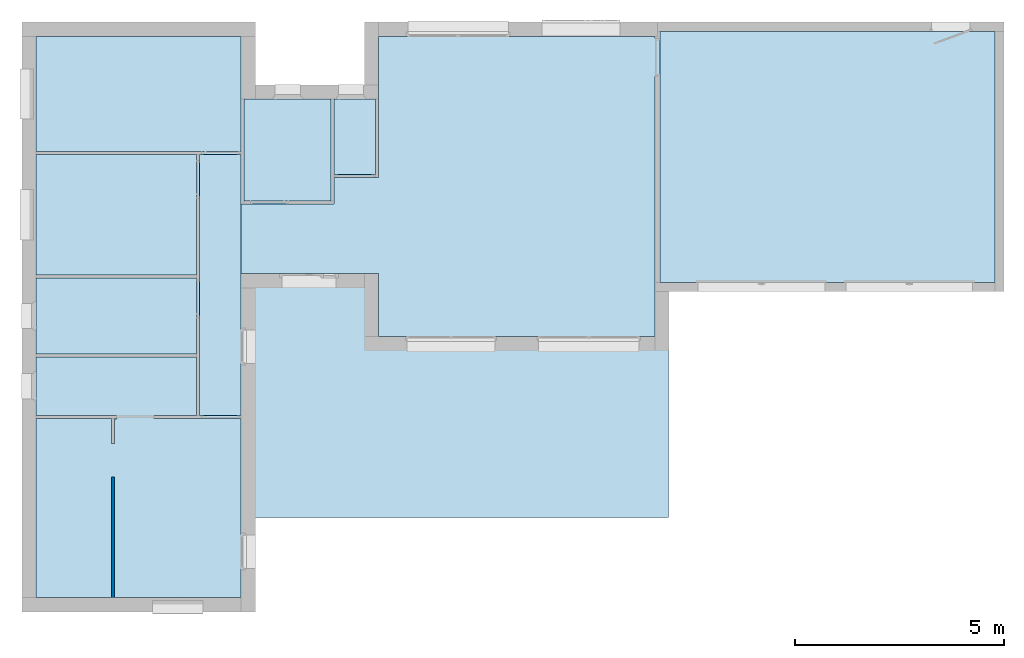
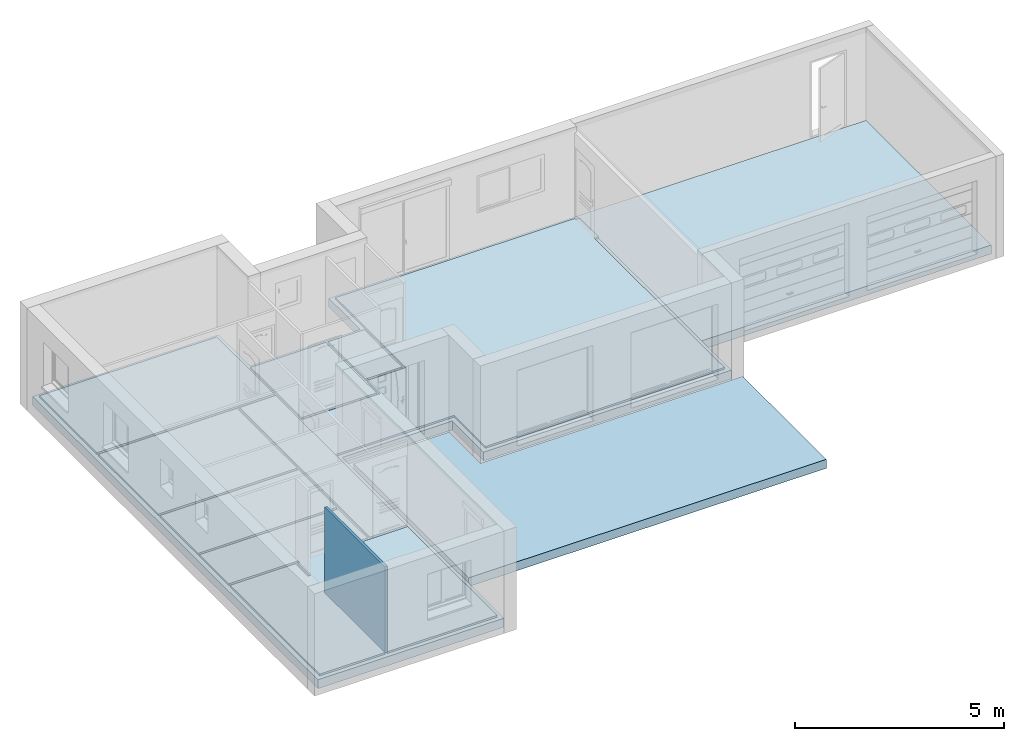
# One storey, part 1 of 23: 11 slabs, 1 wall.
"""IFC2X3 building model written with IfcOpenShell, lengths in metres."""

from ifc_helpers import new_model, entity, si_unit, converted_unit, derived_unit, direction, frame, frame_2d, origin, place, context, subcontext, project, spatial, polyline, rectangle, outline, extrude, material, layer, layer_set, layer_usage, type_object, element, save


model = new_model("IFC2X3")

# Units and contexts
model_context = context("Model", 3, precision=1e-05, world=origin(), true_north=direction((6.12303176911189e-17, 1.0)))
body_context = subcontext(model_context, "Body", "Model", "MODEL_VIEW")
ifc_project = project(units=[si_unit("LENGTHUNIT", "METRE"), si_unit("AREAUNIT", "SQUARE_METRE"), si_unit("VOLUMEUNIT", "CUBIC_METRE"), converted_unit("PLANEANGLEUNIT", "DEGREE", entity("IfcRatioMeasure", 0.0174532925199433), si_unit("PLANEANGLEUNIT", "RADIAN"), dimensions=[0, 0, 0, 0, 0, 0, 0]), si_unit("MASSUNIT", "GRAM", prefix="KILO"), derived_unit("MASSDENSITYUNIT", [(si_unit("MASSUNIT", "GRAM", prefix="KILO"), 1), (si_unit("LENGTHUNIT", "METRE"), -3)]), si_unit("TIMEUNIT", "SECOND"), si_unit("FREQUENCYUNIT", "HERTZ"), si_unit("THERMODYNAMICTEMPERATUREUNIT", "DEGREE_CELSIUS"), derived_unit("THERMALTRANSMITTANCEUNIT", [(si_unit("MASSUNIT", "GRAM", prefix="KILO"), 1), (si_unit("THERMODYNAMICTEMPERATUREUNIT", "KELVIN"), -1), (si_unit("TIMEUNIT", "SECOND"), -3)]), derived_unit("VOLUMETRICFLOWRATEUNIT", [(si_unit("LENGTHUNIT", "METRE"), 3), (si_unit("TIMEUNIT", "SECOND"), -1)]), si_unit("ELECTRICCURRENTUNIT", "AMPERE"), si_unit("ELECTRICVOLTAGEUNIT", "VOLT"), si_unit("POWERUNIT", "WATT"), si_unit("FORCEUNIT", "NEWTON", prefix="KILO"), si_unit("ILLUMINANCEUNIT", "LUX"), si_unit("LUMINOUSFLUXUNIT", "LUMEN"), si_unit("LUMINOUSINTENSITYUNIT", "CANDELA"), derived_unit("USERDEFINED", [(si_unit("MASSUNIT", "GRAM", prefix="KILO"), -1), (si_unit("LENGTHUNIT", "METRE"), -2), (si_unit("TIMEUNIT", "SECOND"), 3), (si_unit("LUMINOUSFLUXUNIT", "LUMEN"), 1)]), derived_unit("LINEARVELOCITYUNIT", [(si_unit("LENGTHUNIT", "METRE"), 1), (si_unit("TIMEUNIT", "SECOND"), -1)]), si_unit("PRESSUREUNIT", "PASCAL"), derived_unit("USERDEFINED", [(si_unit("LENGTHUNIT", "METRE"), -2), (si_unit("MASSUNIT", "GRAM", prefix="KILO"), 1), (si_unit("TIMEUNIT", "SECOND"), -2)])], contexts=[model_context])

# Site, building, storey
site_placement = place(None, origin())
site = spatial("IfcSite", under=ifc_project, at=site_placement, Name="Default", CompositionType="ELEMENT")
building_placement = place(site_placement, origin())
building = spatial("IfcBuilding", under=site, at=building_placement, CompositionType="ELEMENT")
storey_placement = place(building_placement, origin())
storey = spatial("IfcBuildingStorey", under=building, at=storey_placement, Name="2 - Rez de Chaussée", CompositionType="ELEMENT", Elevation=-1.94916083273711e-14)

# Slabs
ifc_material_1 = material(Name="L'Enveloppe Métallique du Bâtiment- Béton coulé + Armature")
ifc_layer_1 = layer(ifc_material_1, 0.1)
ifc_material_2 = material(Name="L'Enveloppe Métallique du Bâtiment - Bac acier+Béton coulé")
ifc_layer_2 = layer(ifc_material_2, 0.1)
ifc_material_3 = material(Name="L'Enveloppe Métallique du Bâtiment-Isolation")
ifc_layer_3 = layer(ifc_material_3, 0.06)
ifc_layer_set_1 = layer_set([ifc_layer_1, ifc_layer_2, ifc_layer_3], Name="Sol:54 - L'Enveloppe Métallique du Bâtiment - Plancher collaborant avec protection feu et/ou acoustique")
ifc_layer_usage_1 = layer_usage(ifc_layer_set_1, "AXIS3", "POSITIVE", 0.0)
slab_1_placement = place(storey_placement, origin())
element("IfcSlab", 1, at=slab_1_placement, inside=storey, material=ifc_layer_usage_1, Name="Sol:54 - L'Enveloppe Métallique du Bâtiment - Plancher collaborant avec protection feu et/ou acoustique", ObjectType="Sol:54 - L'Enveloppe Métallique du Bâtiment - Plancher collaborant avec protection feu et/ou acoustique", PredefinedType="FLOOR", context=body_context, shape_type="SweptSolid", body=[
    extrude(outline(polyline([(-8.905, -6.94333333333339), (4.74500000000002, -6.94333333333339), (4.74500000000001, -1.80333333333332), (3.24500000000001, -1.80333333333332), (3.24500000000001, 1.23666666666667), (4.745, 1.23666666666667), (4.74500000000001, 8.07666666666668), (-2.665, 8.07666666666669), (-2.66500000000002, 1.23666666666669), (-1.16500000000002, 1.23666666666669), (-1.16500000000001, -1.80333333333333), (-8.90500000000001, -1.80333333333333), (-8.905, -6.94333333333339)])), frame((-2.77288913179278, 1.67305500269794, -0.05), z_axis=(0.0, 0.0, -1.0), x_axis=(0.0, 1.0, 0.0)), (0.0, 0.0, 1.0), 0.26),
])
ifc_material_4 = material(Name="Béton, coulé sur place")
ifc_layer_4 = layer(ifc_material_4, 0.1)
ifc_material_5 = material(Name="Fondations filantes")
ifc_layer_5 = layer(ifc_material_5, 0.16)
ifc_layer_set_2 = layer_set([ifc_layer_4, ifc_layer_5], Name="Sol:Plancher poutrelles hourdis - 16+10")
ifc_layer_usage_2 = layer_usage(ifc_layer_set_2, "AXIS3", "POSITIVE", 0.0)
slab_2_placement = place(storey_placement, origin())
element("IfcSlab", 2, at=slab_2_placement, inside=storey, material=ifc_layer_usage_2, Name="Sol:Plancher poutrelles hourdis - 16+10", ObjectType="Sol:Plancher poutrelles hourdis - 16+10", PredefinedType="FLOOR", context=body_context, shape_type="SweptSolid", body=[
    extrude(rectangle(XDim=6.0, YDim=8.0, at=frame_2d((0.0, 8.88178419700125e-16), x_axis=(1.0, 0.0))), frame((9.30377753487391, 3.41805500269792, -0.05), z_axis=(0.0, 0.0, -1.0), x_axis=(0.0, 1.0, 0.0)), (0.0, 0.0, 1.0), 0.26),
])
ifc_layer_usage_3 = layer_usage(ifc_layer_set_2, "AXIS3", "POSITIVE", 0.0)
slab_3_placement = place(storey_placement, origin())
element("IfcSlab", 3, at=slab_3_placement, inside=storey, material=ifc_layer_usage_3, Name="Sol:Plancher poutrelles hourdis - 16+10", ObjectType="Sol:Plancher poutrelles hourdis - 16+10", PredefinedType="FLOOR", context=body_context, shape_type="SweptSolid", body=[
    extrude(outline(polyline([(-3.16576583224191, -4.17333333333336), (2.33288291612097, -4.17333333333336), (2.33288291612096, -1.53333333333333), (0.832882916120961, -1.53333333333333), (0.832882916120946, 5.7066666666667), (-3.16576583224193, 5.7066666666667), (-3.16576583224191, -4.17333333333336)])), frame((-0.202889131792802, -2.02482791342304, -0.18), z_axis=(0.0, 0.0, -1.0), x_axis=(0.0, 1.0, 0.0)), (0.0, 0.0, 1.0), 0.26),
])
ifc_material_6 = material(Name="Dalle, carrelage 25 x 25")
ifc_layer_6 = layer(ifc_material_6, 0.01)
ifc_material_7 = material(Name="Dalle, chape")
ifc_layer_7 = layer(ifc_material_7, 0.04)
ifc_layer_set_3 = layer_set([ifc_layer_6, ifc_layer_7], Name="Sol:Carrelage 1 + Chape liquide 4")
ifc_layer_usage_4 = layer_usage(ifc_layer_set_3, "AXIS3", "POSITIVE", 0.0)
slab_4_placement = place(storey_placement, frame((-9.59622246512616, -7.11194499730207, -0.05)))
element("IfcSlab", 4, at=slab_4_placement, inside=storey, material=ifc_layer_usage_4, Name="Sol:Carrelage 1 + Chape liquide 4", ObjectType="Sol:Carrelage 1 + Chape liquide 4", PredefinedType="FLOOR", context=body_context, shape_type="SweptSolid", body=[
    extrude(rectangle(XDim=2.75000000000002, YDim=4.9, at=frame_2d((0.0, 5.33000000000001), x_axis=(0.0, -1.0))), frame((2.45000000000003, 6.70500000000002, 0.05), z_axis=(0.0, 0.0, -1.0), x_axis=(-1.0, 0.0, 0.0)), (0.0, 0.0, 1.0), 0.05),
])
slab_5_placement = place(storey_placement, frame((-9.59622246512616, -7.11194499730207, -0.05)))
element("IfcSlab", 5, at=slab_5_placement, inside=storey, material=ifc_layer_usage_4, Name="Sol:Carrelage 1 + Chape liquide 4:2", ObjectType="Sol:Carrelage 1 + Chape liquide 4", PredefinedType="FLOOR", context=body_context, shape_type="SweptSolid", body=[
    extrude(rectangle(XDim=2.88000000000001, YDim=3.83, at=frame_2d((0.534999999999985, 2.44500000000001), x_axis=(0.0, -1.0))), frame((2.45000000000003, 6.70500000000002, 0.05), z_axis=(0.0, 0.0, -1.0), x_axis=(-1.0, 0.0, 0.0)), (0.0, 0.0, 1.0), 0.05),
])
slab_6_placement = place(storey_placement, frame((-9.59622246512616, -7.11194499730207, -0.05)))
element("IfcSlab", 6, at=slab_6_placement, inside=storey, material=ifc_layer_usage_4, Name="Sol:Carrelage 1 + Chape liquide 4:3", ObjectType="Sol:Carrelage 1 + Chape liquide 4", PredefinedType="FLOOR", context=body_context, shape_type="SweptSolid", body=[
    extrude(rectangle(XDim=1.82000000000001, YDim=3.83000000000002, at=frame_2d((0.534999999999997, 0.0250000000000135), x_axis=(0.0, -1.0))), frame((2.45000000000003, 6.70500000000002, 0.05), z_axis=(0.0, 0.0, -1.0), x_axis=(-1.0, 0.0, 0.0)), (0.0, 0.0, 1.0), 0.05),
])
slab_7_placement = place(storey_placement, frame((-9.59622246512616, -7.11194499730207, -0.05)))
element("IfcSlab", 7, at=slab_7_placement, inside=storey, material=ifc_layer_usage_4, Name="Sol:Carrelage 1 + Chape liquide 4:4", ObjectType="Sol:Carrelage 1 + Chape liquide 4", PredefinedType="FLOOR", context=body_context, shape_type="SweptSolid", body=[
    extrude(outline(polyline([(-1.38000000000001, -0.954999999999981), (-1.38000000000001, -2.35499999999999), (-0.369999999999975, -2.35499999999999), (-0.369999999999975, -2.42499999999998), (-2.44999999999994, -2.42499999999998), (-2.44999999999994, -6.70500000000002), (0.580000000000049, -6.70500000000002), (0.580000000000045, -3.82499999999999), (0.650000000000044, -3.82499999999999), (0.650000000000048, -6.70499999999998), (2.45000000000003, -6.70499999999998), (2.45000000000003, -2.42499999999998), (0.650000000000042, -2.42499999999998), (0.650000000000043, -3.02499999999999), (0.580000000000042, -3.02499999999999), (0.580000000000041, -2.43499999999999), (0.535000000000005, -2.43499999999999), (0.535000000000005, -2.355), (2.45000000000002, -2.35499999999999), (2.45000000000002, -0.954999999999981), (-1.38000000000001, -0.954999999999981)])), frame((2.45000000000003, 6.70500000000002, 0.05), z_axis=(0.0, 0.0, -1.0), x_axis=(-1.0, 0.0, 0.0)), (0.0, 0.0, 1.0), 0.05),
])
slab_8_placement = place(storey_placement, frame((-9.59622246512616, -7.11194499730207, -0.05)))
element("IfcSlab", 8, at=slab_8_placement, inside=storey, material=ifc_layer_usage_4, Name="Sol:Carrelage 1 + Chape liquide 4:5", ObjectType="Sol:Carrelage 1 + Chape liquide 4", PredefinedType="FLOOR", context=body_context, shape_type="SweptSolid", body=[
    extrude(rectangle(XDim=6.24, YDim=0.999999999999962, at=frame_2d((-1.95, 0.765000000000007), x_axis=(0.0, -1.0))), frame((2.45000000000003, 6.70500000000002, 0.05), z_axis=(0.0, 0.0, -1.0), x_axis=(-1.0, 0.0, 0.0)), (0.0, 0.0, 1.0), 0.05),
])
ifc_layer_usage_5 = layer_usage(ifc_layer_set_3, "AXIS3", "POSITIVE", 0.0)
slab_9_placement = place(storey_placement, origin())
element("IfcSlab", 9, at=slab_9_placement, inside=storey, material=ifc_layer_usage_5, Name="Sol:Carrelage 1 + Chape liquide 4", ObjectType="Sol:Carrelage 1 + Chape liquide 4", PredefinedType="FLOOR", context=body_context, shape_type="SweptSolid", body=[
    extrude(rectangle(XDim=2.42999999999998, YDim=2.06999999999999, at=frame_2d((3.89500000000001, 0.870000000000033), x_axis=(0.0, -1.0))), frame((0.303777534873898, 2.71305500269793, 0.0), z_axis=(0.0, 0.0, -1.0), x_axis=(-1.0, 0.0, 0.0)), (0.0, 0.0, 1.0), 0.05),
])
slab_10_placement = place(storey_placement, origin())
element("IfcSlab", 10, at=slab_10_placement, inside=storey, material=ifc_layer_usage_5, Name="Sol:Carrelage 1 + Chape liquide 4:2", ObjectType="Sol:Carrelage 1 + Chape liquide 4", PredefinedType="FLOOR", context=body_context, shape_type="SweptSolid", body=[
    extrude(rectangle(XDim=1.80000000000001, YDim=0.999999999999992, at=frame_2d((2.29000000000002, 1.18500000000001), x_axis=(0.0, -1.0))), frame((0.303777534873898, 2.71305500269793, 0.0), z_axis=(0.0, 0.0, -1.0), x_axis=(-1.0, 0.0, 0.0)), (0.0, 0.0, 1.0), 0.05),
])
slab_11_placement = place(storey_placement, origin())
element("IfcSlab", 11, at=slab_11_placement, inside=storey, material=ifc_layer_usage_5, Name="Sol:Carrelage 1 + Chape liquide 4:3", ObjectType="Sol:Carrelage 1 + Chape liquide 4", PredefinedType="FLOOR", context=body_context, shape_type="SweptSolid", body=[
    extrude(outline(polyline([(2.79000000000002, -0.414999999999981), (2.79000000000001, 0.215000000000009), (1.72000000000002, 0.215000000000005), (1.72000000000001, 3.58500000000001), (-4.88000000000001, 3.58499999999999), (-4.88000000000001, 3.53500000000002), (-5.0, 3.53500000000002), (-5.0, 2.63499999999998), (-4.88000000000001, 2.63499999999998), (-4.88, -3.58500000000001), (1.72000000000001, -3.58499999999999), (1.72000000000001, -2.08500000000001), (5.0, -2.085), (5.0, -0.414999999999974), (2.79000000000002, -0.414999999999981)])), frame((0.303777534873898, 2.71305500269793, 0.0), z_axis=(0.0, 0.0, -1.0), x_axis=(-1.0, 0.0, 0.0)), (0.0, 0.0, 1.0), 0.05),
])

# Wall
ifc_material_8 = material(Name="Mur par défaut")
ifc_layer_8 = layer(ifc_material_8, 0.07)
ifc_layer_set_4 = layer_set([ifc_layer_8], Name="Mur de base:Cloison distributive Placostil® 72/48 - 1x Placoplatre® BA 13 avec M 48 - EI30 - 33dB - max 3,45m")
ifc_layer_usage_6 = layer_usage(ifc_layer_set_4, "AXIS2", "NEGATIVE", 0.035)
wall_type = type_object("IfcWallType", Name="Mur de base:Cloison distributive Placostil® 72/48 - 1x Placoplatre® BA 13 avec M 48 - EI30 - 33dB - max 3,45m", PredefinedType="STANDARD", material=ifc_layer_set_4)
wall_placement = place(storey_placement, frame((-7.76122246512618, -4.23194499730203, 0.0), z_axis=(0.0, 0.0, 1.0), x_axis=(0.0, -1.0, 0.0)))
element("IfcWallStandardCase", 12, at=wall_placement, inside=storey, type_object=wall_type, material=ifc_layer_usage_6, Name="Mur de base:Cloison distributive Placostil® 72/48 - 1x Placoplatre® BA 13 avec M 48 - EI30 - 33dB - max 3,45m", ObjectType="Mur de base:Cloison distributive Placostil® 72/48 - 1x Placoplatre® BA 13 avec M 48 - EI30 - 33dB - max 3,45m", context=body_context, shape_type="SweptSolid", body=[
    extrude(rectangle(XDim=2.88000000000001, YDim=0.0699999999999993, at=frame_2d((1.44, 1.97758476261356e-16), x_axis=(-1.0, 0.0))), origin(), (0.0, 0.0, 1.0), 2.50000000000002),
])

save(model, "model.ifc")
